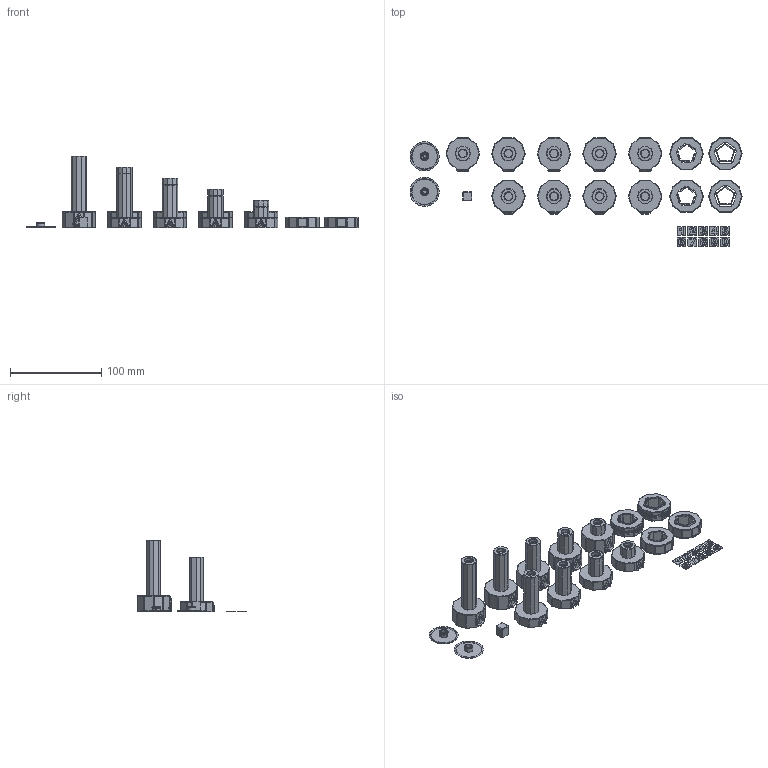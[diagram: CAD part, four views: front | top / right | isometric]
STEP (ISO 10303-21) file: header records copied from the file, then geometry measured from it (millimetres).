
FILE_DESCRIPTION(/* description */ (''),/* implementation_level */ '2;1');
FILE_NAME(/* name */ 'HP Tracker v2 v25.step',/* time_stamp */ '2023-08-05T20:12:34+02:00',/* author */ (''),/* organization */ (''),/* preprocessor_version */ 'ST-DEVELOPER v20',/* originating_system */ 'Autodesk Translation Framework v12.9.0.99',/* authorisation */ '');
FILE_SCHEMA (('AUTOMOTIVE_DESIGN { 1 0 10303 214 3 1 1 }'));
Products named in the file (1): HP Tracker v2
Bounding box: 364.3 x 119.3 x 79 mm (x, y, z)
Volume: 227125.1 mm3; surface area: 77655.3 mm2
Topology: 26 solids, 26 shells, 2561 faces, 6548 edges, 4137 vertices
Faces by surface type: plane 1153, bspline 950, cylinder 408, cone 41, torus 9
Full cylindrical faces by diameter (mm): 6 x1, 8.7 x1, 8.8 x9, 9.8 x9, 32 x2
Entity records: 112236 total; most frequent: CARTESIAN_POINT 56306, ORIENTED_EDGE 13096, DIRECTION 8800, EDGE_CURVE 6548, VERTEX_POINT 4137, LINE 3604, VECTOR 3604, EDGE_LOOP 2687
